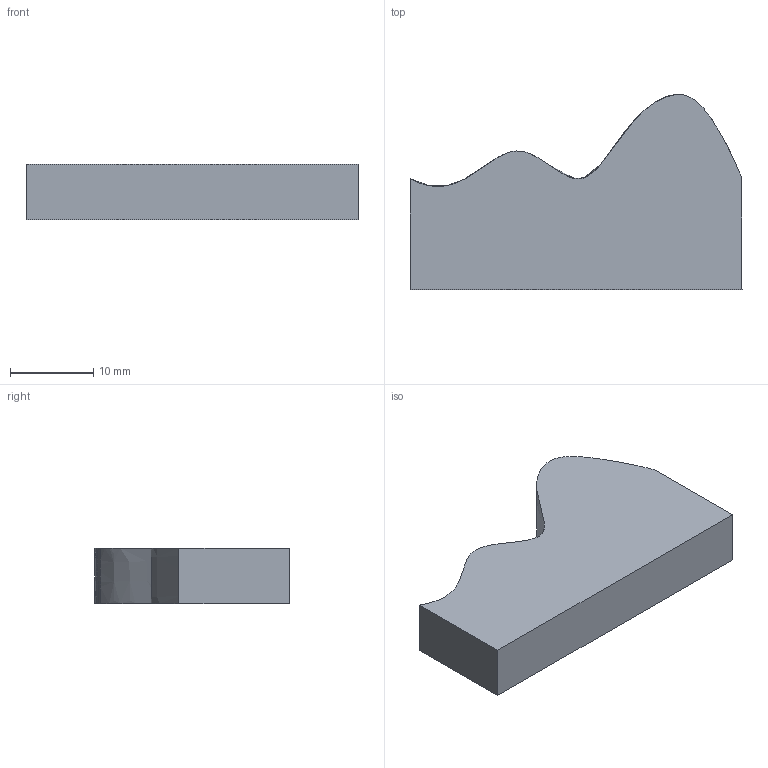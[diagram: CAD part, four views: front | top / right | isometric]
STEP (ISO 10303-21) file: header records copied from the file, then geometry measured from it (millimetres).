
FILE_DESCRIPTION(('Open CASCADE Model'),'2;1');
FILE_NAME('Open CASCADE Shape Model','2026-10-26T18:46:38',('Author'),( 'Open CASCADE'),'Open CASCADE STEP processor 7.9','Open CASCADE 7.9' ,'Unknown');
FILE_SCHEMA(('AUTOMOTIVE_DESIGN { 1 0 10303 214 1 1 1 1 }'));
Length unit declared in the file: millimetre
Products named in the file (1): Open CASCADE STEP translator 7.9 1
Bounding box: 40 x 23.49 x 6.67 mm (x, y, z)
Volume: 4486.5 mm3; surface area: 2136.9 mm2
Topology: 1 solids, 1 shells, 21 faces, 57 edges, 38 vertices
Faces by surface type: plane 16, bspline 3, cylinder 2
Entity records: 3276 total; most frequent: CARTESIAN_POINT 2304, DIRECTION 117, ORIENTED_EDGE 114, PCURVE 114, DEFINITIONAL_REPRESENTATION 114, B_SPLINE_CURVE_WITH_KNOTS 94, LINE 69, VECTOR 69
